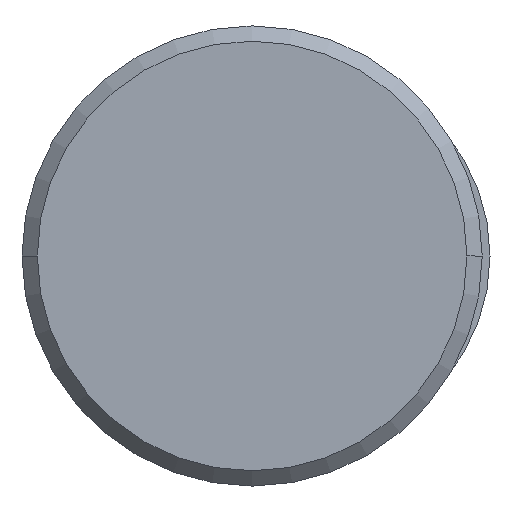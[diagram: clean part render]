
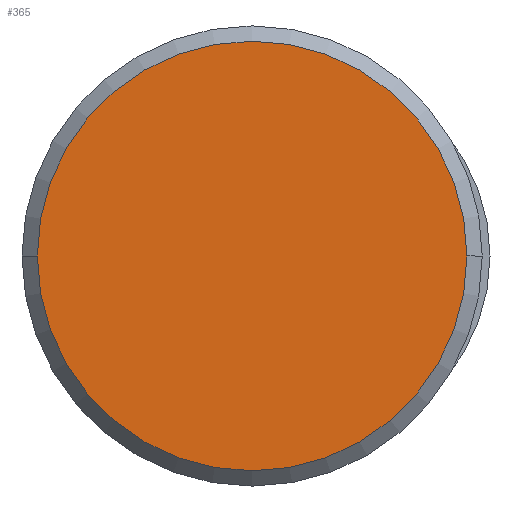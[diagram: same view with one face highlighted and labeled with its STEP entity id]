
A CAD part, left-side view. The second image highlights one B-rep face of the part: STEP entity #365.
In plain terms, the highlighted planar face has unit normal (-1, 0, 0).
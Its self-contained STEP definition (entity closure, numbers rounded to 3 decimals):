
#247=CARTESIAN_POINT('Vertex',(-11.,-28.,0.)) ;
#250=CARTESIAN_POINT('Axis2P3D Location',(-11.,0.,0.)) ;
#254=CARTESIAN_POINT('Vertex',(-11.,28.,0.)) ;
#274=CARTESIAN_POINT('Axis2P3D Location',(-11.,0.,0.)) ;
#356=CARTESIAN_POINT('Axis2P3D Location',(-11.,-14.,0.)) ;
#251=DIRECTION('Axis2P3D Direction',(1.,0.,0.)) ;
#275=DIRECTION('Axis2P3D Direction',(1.,0.,0.)) ;
#357=DIRECTION('Axis2P3D Direction',(-1.,0.,0.)) ;
#358=DIRECTION('Axis2P3D XDirection',(0.,-1.,0.)) ;
#252=AXIS2_PLACEMENT_3D('Circle Axis2P3D',#250,#251,$) ;
#276=AXIS2_PLACEMENT_3D('Circle Axis2P3D',#274,#275,$) ;
#359=AXIS2_PLACEMENT_3D('Plane Axis2P3D',#356,#357,#358) ;
#362=ORIENTED_EDGE('',*,*,#278,.F.) ;
#363=ORIENTED_EDGE('',*,*,#256,.F.) ;
#365=ADVANCED_FACE('NONE',(#364),#360,.T.) ;
#253=CIRCLE('generated circle',#252,28.) ;
#277=CIRCLE('generated circle',#276,28.) ;
#256=EDGE_CURVE('',#248,#255,#253,.T.) ;
#278=EDGE_CURVE('',#255,#248,#277,.T.) ;
#361=EDGE_LOOP('',(#362,#363)) ;
#364=FACE_OUTER_BOUND('',#361,.T.) ;
#360=PLANE('Plane',#359) ;
#248=VERTEX_POINT('',#247) ;
#255=VERTEX_POINT('',#254) ;
